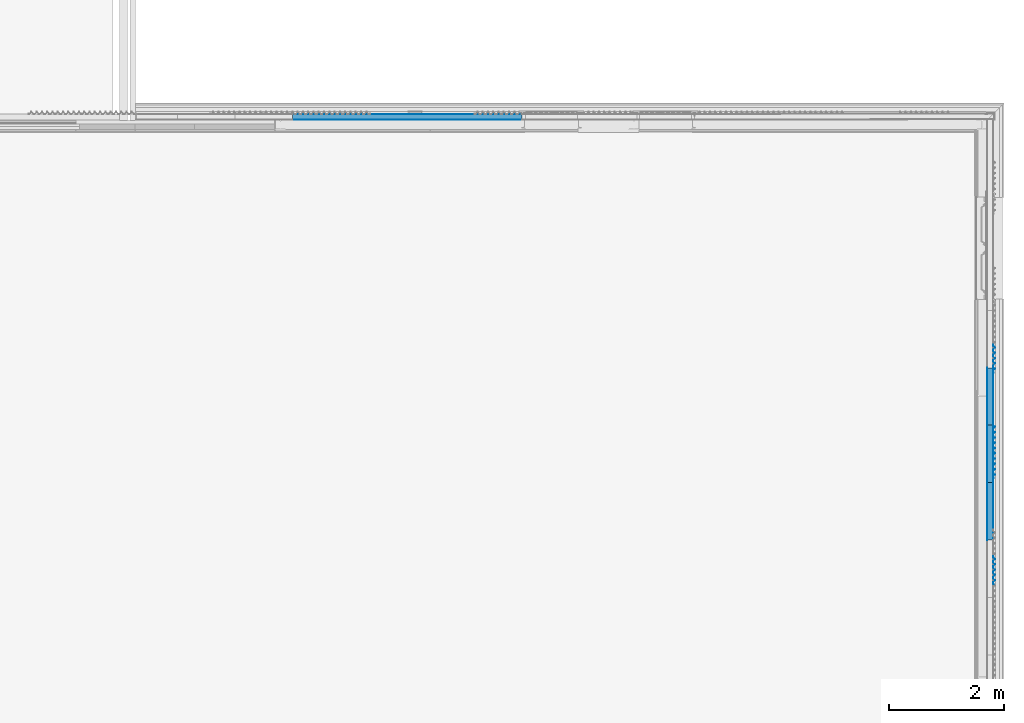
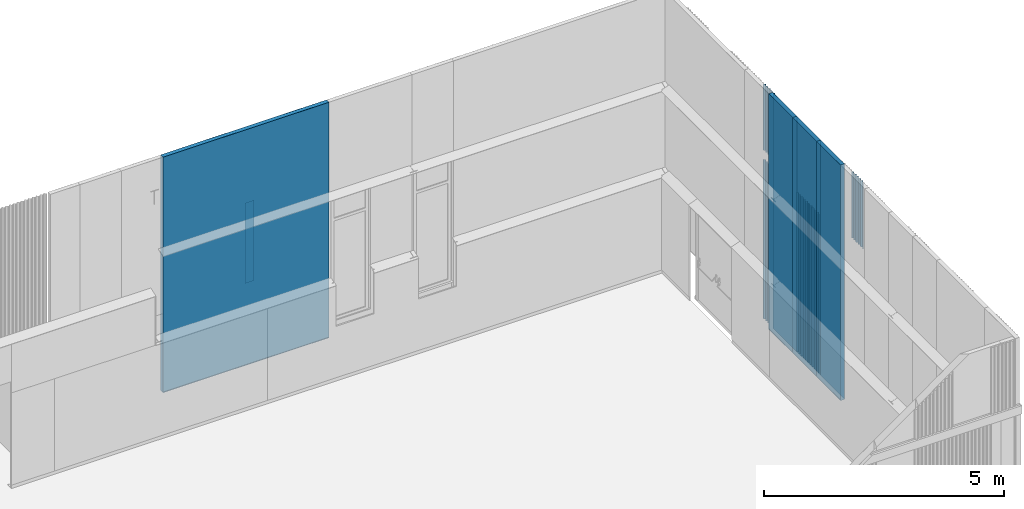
# One storey, part 105 of 338: 18 building element parts, 9 elements without a shape of their own.
"""IFC2X3 building model written with IfcOpenShell, lengths in millimetres."""

from ifc_helpers import new_model, entity, si_unit, converted_unit, derived_unit, money_unit, direction, frame, origin_with_axes, place, context, subcontext, project, spatial, faceted_brep, material, type_object, element, aggregate, save


model = new_model("IFC2X3")

# Units and contexts
model_context = context("Model", 3, precision=0.01, world=origin_with_axes(), true_north=direction((0.0, 1.0)))
plan_context = context("Plan", 3, precision=0.01, world=origin_with_axes(), true_north=direction((0.0, 1.0)))
body_context = subcontext(model_context, "Body", "Model", "MODEL_VIEW")
ifc_project = project(units=[si_unit("LENGTHUNIT", "METRE", prefix="MILLI"), si_unit("AREAUNIT", "SQUARE_METRE"), si_unit("VOLUMEUNIT", "CUBIC_METRE"), converted_unit("PLANEANGLEUNIT", "DEGREE", entity("IfcPlaneAngleMeasure", 0.0174532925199), si_unit("PLANEANGLEUNIT", "RADIAN"), dimensions=[0, 0, 0, 0, 0, 0, 0]), money_unit("EUR"), converted_unit("TIMEUNIT", "Year", entity("IfcTimeMeasure", 31556926.0), si_unit("TIMEUNIT", "SECOND"), dimensions=[0, 0, 1, 0, 0, 0, 0]), si_unit("MASSUNIT", "GRAM", prefix="KILO"), si_unit("THERMODYNAMICTEMPERATUREUNIT", "DEGREE_CELSIUS"), si_unit("LUMINOUSINTENSITYUNIT", "LUMEN"), si_unit("ENERGYUNIT", "JOULE", prefix="MEGA"), derived_unit("THERMALCONDUCTANCEUNIT", [(si_unit("POWERUNIT", "WATT"), 1), (si_unit("LENGTHUNIT", "METRE"), -1), (si_unit("THERMODYNAMICTEMPERATUREUNIT", "KELVIN"), -1)]), derived_unit("SPECIFICHEATCAPACITYUNIT", [(si_unit("ENERGYUNIT", "JOULE"), 1), (si_unit("MASSUNIT", "GRAM", prefix="KILO"), -1), (si_unit("THERMODYNAMICTEMPERATUREUNIT", "KELVIN"), -1)]), derived_unit("MASSDENSITYUNIT", [(si_unit("MASSUNIT", "GRAM", prefix="KILO"), 1), (si_unit("VOLUMEUNIT", "CUBIC_METRE"), -1)])], contexts=[model_context, plan_context])

# Site, building, storey
site_placement = place(None, origin_with_axes())
site = spatial("IfcSite", under=ifc_project, at=site_placement, Name="Fortuinstraat Woensdrecht", CompositionType="ELEMENT")
building_placement = place(site_placement, origin_with_axes())
building = spatial("IfcBuilding", under=site, at=building_placement, Name="IKC Fortuna", CompositionType="ELEMENT")
storey_placement = place(building_placement, origin_with_axes())
storey = spatial("IfcBuildingStorey", under=building, at=storey_placement, Name="00 begane grond", CompositionType="ELEMENT", Elevation=0.0)

# Wall, building element parts
wall_type_1 = type_object("IfcWallType", Name="21 sandwich 100", PredefinedType="NOTDEFINED")
wall_1_placement = place(storey_placement, frame((59433.4270571, 30181.3126832, 1000.0), z_axis=(0.0, 0.0, 1.0), x_axis=(0.0, -1.0, 0.0)))
wall_1 = element("IfcWall", 1, at=wall_1_placement, inside=storey, type_object=wall_type_1, Name="21_Wand_sandwichplaat")
ifc_material_1 = material(Name="Metaal - Aluminium")
building_element_part_1_placement = place(wall_1_placement, origin_with_axes())
building_element_part_1 = element("IfcBuildingElementPart", 2, at=building_element_part_1_placement, material=ifc_material_1, Name="Metaal - Aluminium", context=body_context, shape_type="Brep", body=[
    faceted_brep([(0.0, 99.0, 6000.0), (1000.0, 99.0, 6000.0), (1000.0, 100.0, 6000.0), (0.0, 100.0, 6000.0), (0.0, 99.0, 0.0), (1000.0, 99.0, 0.0), (1000.0, 100.0, 0.0), (0.0, 100.0, 0.0)], [[[0, 1, 2, 3]], [[4, 5, 1, 0]], [[2, 1, 5, 6]], [[3, 2, 6, 7]], [[4, 0, 3, 7]], [[7, 6, 5, 4]]]),
])
ifc_material_2 = material(Name="Isolatie - Kunststof hard")
building_element_part_2_placement = place(wall_1_placement, origin_with_axes())
building_element_part_2 = element("IfcBuildingElementPart", 3, at=building_element_part_2_placement, material=ifc_material_2, Name="Isolatie - Kunststof hard", context=body_context, shape_type="Brep", body=[
    faceted_brep([(1000.0, 0.999999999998, 6000.0), (1000.0, 99.0, 6000.0), (0.0, 99.0, 6000.0), (0.0, 0.999999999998, 6000.0), (1000.0, 0.999999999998, 0.0), (1000.0, 99.0, 0.0), (0.0, 99.0, 0.0), (0.0, 0.999999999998, 0.0)], [[[0, 1, 2, 3]], [[0, 4, 5, 1]], [[1, 5, 6, 2]], [[3, 2, 6, 7]], [[4, 0, 3, 7]], [[5, 4, 7, 6]]]),
])
building_element_part_3_placement = place(wall_1_placement, origin_with_axes())
building_element_part_3 = element("IfcBuildingElementPart", 4, at=building_element_part_3_placement, material=ifc_material_1, Name="Metaal - Aluminium", context=body_context, shape_type="Brep", body=[
    faceted_brep([(1000.0, 0.0, 6000.0), (0.0, 0.0, 6000.0), (0.0, 8.02842237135e-08, 18.9263474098), (337.287320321, 8.33466629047e-08, 18.9263474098), (412.41545981, 8.33466629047e-08, 18.9263474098), (1000.0, 8.18118905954e-08, 18.9263474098), (1000.0, 0.999999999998, 6000.0), (0.0, 0.999999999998, 6000.0), (0.0, 0.999999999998, 18.9261694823), (1000.0, 0.999999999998, 18.9261694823)], [[[0, 1, 2, 3, 4, 5]], [[0, 6, 7, 1]], [[1, 7, 8, 2]], [[4, 3, 2, 8, 9, 5]], [[6, 0, 5, 9]], [[6, 9, 8, 7]]]),
])
aggregate(wall_1, [building_element_part_1, building_element_part_2, building_element_part_3])

wall_2_placement = place(storey_placement, frame((59433.4270571, 29181.3126832, 1000.0), z_axis=(0.0, 0.0, 1.0), x_axis=(0.0, -1.0, 0.0)))
wall_2 = element("IfcWall", 5, at=wall_2_placement, inside=storey, type_object=wall_type_1, Name="21_Wand_sandwichplaat")
building_element_part_4_placement = place(wall_2_placement, origin_with_axes())
building_element_part_4 = element("IfcBuildingElementPart", 6, at=building_element_part_4_placement, material=ifc_material_1, Name="Metaal - Aluminium", context=body_context, shape_type="Brep", body=[
    faceted_brep([(0.0, 99.0, 6000.0), (1000.0, 99.0, 6000.0), (1000.0, 100.0, 6000.0), (0.0, 100.0, 6000.0), (0.0, 99.0, 0.0), (1000.0, 99.0, 0.0), (1000.0, 100.0, 0.0), (0.0, 100.0, 0.0)], [[[0, 1, 2, 3]], [[4, 5, 1, 0]], [[2, 1, 5, 6]], [[3, 2, 6, 7]], [[4, 0, 3, 7]], [[7, 6, 5, 4]]]),
])
building_element_part_5_placement = place(wall_2_placement, origin_with_axes())
building_element_part_5 = element("IfcBuildingElementPart", 7, at=building_element_part_5_placement, material=ifc_material_2, Name="Isolatie - Kunststof hard", context=body_context, shape_type="Brep", body=[
    faceted_brep([(1000.0, 0.999999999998, 6000.0), (1000.0, 99.0, 6000.0), (0.0, 99.0, 6000.0), (0.0, 0.999999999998, 6000.0), (1000.0, 0.999999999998, 0.0), (1000.0, 99.0, 0.0), (0.0, 99.0, 0.0), (0.0, 0.999999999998, 0.0)], [[[0, 1, 2, 3]], [[0, 4, 5, 1]], [[1, 5, 6, 2]], [[3, 2, 6, 7]], [[4, 0, 3, 7]], [[5, 4, 7, 6]]]),
])
building_element_part_6_placement = place(wall_2_placement, origin_with_axes())
building_element_part_6 = element("IfcBuildingElementPart", 8, at=building_element_part_6_placement, material=ifc_material_1, Name="Metaal - Aluminium", context=body_context, shape_type="Brep", body=[
    faceted_brep([(1000.0, 0.0, 6000.0), (0.0, 0.0, 6000.0), (0.0, 8.18047851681e-08, 18.9263474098), (1000.0, 7.91828824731e-08, 18.9263474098), (1000.0, 0.999999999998, 6000.0), (0.0, 0.999999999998, 6000.0), (0.0, 0.999999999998, 18.9261694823), (1000.0, 0.999999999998, 18.9261694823)], [[[0, 1, 2, 3]], [[1, 0, 4, 5]], [[2, 1, 5, 6]], [[3, 2, 6, 7]], [[0, 3, 7, 4]], [[5, 4, 7, 6]]]),
])
aggregate(wall_2, [building_element_part_4, building_element_part_5, building_element_part_6])

wall_3_placement = place(storey_placement, frame((59433.4270571, 31181.3126832, 1000.0), z_axis=(0.0, 0.0, 1.0), x_axis=(0.0, -1.0, 0.0)))
wall_3 = element("IfcWall", 9, at=wall_3_placement, inside=storey, type_object=wall_type_1, Name="21_Wand_sandwichplaat")
building_element_part_7_placement = place(wall_3_placement, origin_with_axes())
building_element_part_7 = element("IfcBuildingElementPart", 10, at=building_element_part_7_placement, material=ifc_material_1, Name="Metaal - Aluminium", context=body_context, shape_type="Brep", body=[
    faceted_brep([(0.0, 99.0, 6000.0), (1000.0, 99.0, 6000.0), (1000.0, 100.0, 6000.0), (0.0, 100.0, 6000.0), (0.0, 99.0, 0.0), (1000.0, 99.0, 0.0), (1000.0, 100.0, 0.0), (0.0, 100.0, 0.0)], [[[0, 1, 2, 3]], [[4, 5, 1, 0]], [[2, 1, 5, 6]], [[3, 2, 6, 7]], [[4, 0, 3, 7]], [[7, 6, 5, 4]]]),
])
building_element_part_8_placement = place(wall_3_placement, origin_with_axes())
building_element_part_8 = element("IfcBuildingElementPart", 11, at=building_element_part_8_placement, material=ifc_material_2, Name="Isolatie - Kunststof hard", context=body_context, shape_type="Brep", body=[
    faceted_brep([(1000.0, 0.999999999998, 6000.0), (1000.0, 99.0, 6000.0), (0.0, 99.0, 6000.0), (0.0, 0.999999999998, 6000.0), (1000.0, 0.999999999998, 0.0), (1000.0, 99.0, 0.0), (0.0, 99.0, 0.0), (0.0, 0.999999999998, 0.0)], [[[0, 1, 2, 3]], [[0, 4, 5, 1]], [[1, 5, 6, 2]], [[3, 2, 6, 7]], [[4, 0, 3, 7]], [[5, 4, 7, 6]]]),
])
building_element_part_9_placement = place(wall_3_placement, origin_with_axes())
building_element_part_9 = element("IfcBuildingElementPart", 12, at=building_element_part_9_placement, material=ifc_material_1, Name="Metaal - Aluminium", context=body_context, shape_type="Brep", body=[
    faceted_brep([(0.0, 7.12176984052e-08, 18.9263474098), (1000.0, 8.02842237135e-08, 18.9263474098), (1000.0, 0.0, 6000.0), (0.0, 0.0, 6000.0), (0.0, 1.00000004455, 18.9261694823), (1000.0, 1.00000004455, 18.9261694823), (1000.0, 0.999999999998, 6000.0), (0.0, 0.999999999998, 6000.0)], [[[0, 1, 2, 3]], [[1, 0, 4, 5]], [[2, 1, 5, 6]], [[3, 2, 6, 7]], [[0, 3, 7, 4]], [[5, 4, 7, 6]]]),
])
aggregate(wall_3, [building_element_part_7, building_element_part_8, building_element_part_9])

wall_4_placement = place(storey_placement, frame((47338.4270571, 35496.2966283, 1000.0), z_axis=(0.0, 0.0, 1.0), x_axis=(1.0, 0.0, 0.0)))
wall_4 = element("IfcWall", 13, at=wall_4_placement, inside=storey, type_object=wall_type_1, Name="21_Wand_sandwichplaat")
building_element_part_10_placement = place(wall_4_placement, origin_with_axes())
building_element_part_10 = element("IfcBuildingElementPart", 14, at=building_element_part_10_placement, material=ifc_material_1, Name="Metaal - Aluminium", context=body_context, shape_type="Brep", body=[
    faceted_brep([(4000.00000006, 99.0, 3566.00076674), (4000.00000006, 100.0, 3566.00076674), (4000.00000006, 100.0, 6000.0), (4000.00000006, 99.0, 6000.0), (3959.99995929, 100.0, 3566.00076674), (3959.99995929, 99.0, 3566.00076674), (3959.99995929, 100.0, 3565.00076674), (4000.00000006, 100.0, 3565.00076674), (4000.00000006, 100.0, 0.0), (0.0, 100.0, 0.0), (0.0, 100.0, 6000.0), (0.0, 99.0, 6000.0), (0.0, 99.0, 0.0), (4000.00000006, 99.0, 0.0), (4000.00000006, 99.0, 3565.00076674), (3959.99995929, 99.0, 3565.00076674)], [[[0, 1, 2, 3]], [[4, 1, 0, 5]], [[6, 7, 8, 9, 10, 2, 1, 4]], [[11, 3, 2, 10]], [[5, 0, 3, 11, 12, 13, 14, 15]], [[6, 4, 5, 15]], [[14, 7, 6, 15]], [[7, 14, 13, 8]], [[9, 8, 13, 12]], [[12, 11, 10, 9]]]),
])
building_element_part_11_placement = place(wall_4_placement, origin_with_axes())
building_element_part_11 = element("IfcBuildingElementPart", 15, at=building_element_part_11_placement, material=ifc_material_2, Name="Isolatie - Kunststof hard", context=body_context, shape_type="Brep", body=[
    faceted_brep([(4000.00000006, 0.999999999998, 6000.0), (4000.00000006, 99.0, 6000.0), (0.0, 99.0, 6000.0), (0.0, 0.999999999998, 6000.0), (4000.00000006, 0.999999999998, 0.0), (4000.00000006, 99.0, 0.0), (0.0, 99.0, 0.0), (0.0, 0.999999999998, 0.0)], [[[0, 1, 2, 3]], [[0, 4, 5, 1]], [[1, 5, 6, 2]], [[3, 2, 6, 7]], [[4, 0, 3, 7]], [[5, 4, 7, 6]]]),
])
building_element_part_12_placement = place(wall_4_placement, origin_with_axes())
building_element_part_12 = element("IfcBuildingElementPart", 16, at=building_element_part_12_placement, material=ifc_material_1, Name="Metaal - Aluminium", context=body_context, shape_type="Brep", body=[
    faceted_brep([(0.0, 0.999999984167, 19.9966193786), (0.0, 0.999999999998, 6000.0), (4000.00000006, 0.999999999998, 6000.0), (4000.00000006, 0.999999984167, 19.9966193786), (0.0, 0.0, 19.996797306), (0.0, 0.0, 6000.0), (4000.00000006, 0.0, 6000.0), (4000.00000006, 0.0, 19.996797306)], [[[0, 1, 2, 3]], [[0, 4, 5, 1]], [[1, 5, 6, 2]], [[6, 7, 3, 2]], [[4, 0, 3, 7]], [[5, 4, 7, 6]]]),
])
aggregate(wall_4, [building_element_part_10, building_element_part_11, building_element_part_12])

# Wall, building element part
wall_type_2 = type_object("IfcWallType", Name="21 Plankprofiel 37", PredefinedType="NOTDEFINED")
wall_5_placement = place(storey_placement, frame((49588.4257084, 35496.3640064, 3010.0), z_axis=(0.0, 0.0, 1.0), x_axis=(-0.999999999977, 6.74351797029e-06, 0.0)))
wall_5 = element("IfcWall", 17, at=wall_5_placement, inside=storey, type_object=wall_type_2, Name="21_Wand_sandwichplaat")
building_element_part_13_placement = place(wall_5_placement, origin_with_axes())
building_element_part_13 = element("IfcBuildingElementPart", 18, at=building_element_part_13_placement, material=ifc_material_1, Name="Metaal - Aluminium", context=body_context, shape_type="Brep", body=[
    faceted_brep([(220.0, -100.0, 0.0), (220.0, -101.0, 0.0), (0.0, -101.0, 0.0), (0.0, -100.0, 0.0), (220.0, -100.0, 2050.85690076), (220.0, -101.0, 2050.85690076), (0.0, -101.0, 2050.85690076), (0.0, -100.0, 2050.85690076)], [[[0, 1, 2, 3]], [[0, 4, 5, 1]], [[1, 5, 6, 2]], [[3, 2, 6, 7]], [[4, 0, 3, 7]], [[5, 4, 7, 6]]]),
])
aggregate(wall_5, [building_element_part_13])

# Proxy, building element part
building_element_proxy_type = type_object("IfcBuildingElementProxyType", Name="21 Sandwich custom pyramid 946 x 37", PredefinedType="NOTDEFINED")
proxy_1_placement = place(storey_placement, frame((59533.4270571, 32043.6060069, 1000.0), z_axis=(0.0, 0.0, 1.0), x_axis=(0.0, -1.0, 0.0)))
proxy_1 = element("IfcBuildingElementProxy", 19, at=proxy_1_placement, inside=storey, type_object=building_element_proxy_type, Name="41_Generieke bekleding & afwerking buiten_sandwich custom pyramid")
building_element_part_14_placement = place(proxy_1_placement, origin_with_axes())
building_element_part_14 = element("IfcBuildingElementPart", 20, at=building_element_part_14_placement, material=ifc_material_1, Name="Metaal - Aluminium", context=body_context, shape_type="Brep", body=[
    faceted_brep([(460.0, 1.2, 0.0), (477.234285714, 1.2, 0.0), (477.234285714, 1.2, 4060.85690076), (460.0, 1.2, 4060.85690076), (460.0, 2.4, 0.0), (476.747100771, 2.4, 0.0), (512.0, 36.6736520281, 0.0), (548.487184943, 1.2, 0.0), (567.512815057, 1.2, 0.0), (604.0, 36.6736520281, 0.0), (640.487184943, 1.2, 0.0), (659.512815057, 1.2, 0.0), (696.0, 36.6736520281, 0.0), (732.487184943, 1.2, 0.0), (751.512815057, 1.2, 0.0), (788.0, 36.6736520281, 0.0), (824.487184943, 1.2, 0.0), (843.512815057, 1.2, 0.0), (880.0, 36.6736520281, 0.0), (916.487184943, 1.2, 0.0), (937.234285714, 1.2, 0.0), (945.472884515, 9.20974883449, 0.0), (946.309378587, 8.34935493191, 0.0), (937.721470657, 0.0, 0.0), (916.0, 0.0, 0.0), (880.0, 35.0, 0.0), (844.0, 0.0, 0.0), (824.0, 0.0, 0.0), (788.0, 35.0, 0.0), (752.0, 0.0, 0.0), (732.0, 0.0, 0.0), (696.0, 35.0, 0.0), (660.0, 0.0, 0.0), (640.0, 0.0, 0.0), (604.0, 35.0, 0.0), (568.0, 0.0, 0.0), (548.0, 0.0, 0.0), (512.0, 35.0, 0.0), (485.472879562, 9.20975302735, 0.0), (485.472879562, 9.20975302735, 4060.85690076), (512.0, 35.0, 4060.85690076), (548.0, 0.0, 4060.85690076), (568.0, 0.0, 4060.85690076), (604.0, 35.0, 4060.85690076), (640.0, 0.0, 4060.85690076), (660.0, 0.0, 4060.85690076), (696.0, 35.0, 4060.85690076), (732.0, 0.0, 4060.85690076), (752.0, 0.0, 4060.85690076), (788.0, 35.0, 4060.85690076), (824.0, 0.0, 4060.85690076), (844.0, 0.0, 4060.85690076), (880.0, 35.0, 4060.85690076), (916.0, 0.0, 4060.85690076), (937.721470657, 0.0, 4060.85690076), (946.309378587, 8.34935493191, 4060.85690076), (945.472884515, 9.20974883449, 4060.85690076), (937.234285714, 1.2, 4060.85690076), (916.487184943, 1.2, 4060.85690076), (880.0, 36.6736520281, 4060.85690076), (843.512815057, 1.2, 4060.85690076), (824.487184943, 1.2, 4060.85690076), (788.0, 36.6736520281, 4060.85690076), (751.512815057, 1.2, 4060.85690076), (732.487184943, 1.2, 4060.85690076), (696.0, 36.6736520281, 4060.85690076), (659.512815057, 1.2, 4060.85690076), (640.487184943, 1.2, 4060.85690076), (604.0, 36.6736520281, 4060.85690076), (567.512815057, 1.2, 4060.85690076), (548.487184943, 1.2, 4060.85690076), (512.0, 36.6736520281, 4060.85690076), (476.747100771, 2.4, 4060.85690076), (460.0, 2.4, 4060.85690076)], [[[0, 1, 2, 3]], [[0, 4, 5, 6, 7, 8, 9, 10, 11, 12, 13, 14, 15, 16, 17, 18, 19, 20, 21, 22, 23, 24, 25, 26, 27, 28, 29, 30, 31, 32, 33, 34, 35, 36, 37, 38, 1]], [[1, 38, 39, 2]], [[3, 2, 39, 40, 41, 42, 43, 44, 45, 46, 47, 48, 49, 50, 51, 52, 53, 54, 55, 56, 57, 58, 59, 60, 61, 62, 63, 64, 65, 66, 67, 68, 69, 70, 71, 72, 73]], [[4, 0, 3, 73]], [[5, 4, 73, 72]], [[6, 5, 72, 71]], [[7, 6, 71, 70]], [[8, 7, 70, 69]], [[9, 8, 69, 68]], [[10, 9, 68, 67]], [[11, 10, 67, 66]], [[12, 11, 66, 65]], [[13, 12, 65, 64]], [[14, 13, 64, 63]], [[15, 14, 63, 62]], [[16, 15, 62, 61]], [[17, 16, 61, 60]], [[18, 17, 60, 59]], [[19, 18, 59, 58]], [[20, 19, 58, 57]], [[21, 20, 57, 56]], [[22, 21, 56, 55]], [[23, 22, 55, 54]], [[24, 23, 54, 53]], [[25, 24, 53, 52]], [[26, 25, 52, 51]], [[27, 26, 51, 50]], [[28, 27, 50, 49]], [[29, 28, 49, 48]], [[30, 29, 48, 47]], [[31, 30, 47, 46]], [[32, 31, 46, 45]], [[33, 32, 45, 44]], [[34, 33, 44, 43]], [[35, 34, 43, 42]], [[36, 35, 42, 41]], [[37, 36, 41, 40]], [[38, 37, 40, 39]]]),
])
aggregate(proxy_1, [building_element_part_14])

proxy_2_placement = place(storey_placement, frame((59533.4270571, 32043.6060069, 5289.99999237), z_axis=(0.0, 0.0, 1.0), x_axis=(0.0, -1.0, 0.0)))
proxy_2 = element("IfcBuildingElementProxy", 21, at=proxy_2_placement, inside=storey, type_object=building_element_proxy_type, Name="41_Generieke bekleding & afwerking buiten_sandwich custom pyramid")
building_element_part_15_placement = place(proxy_2_placement, origin_with_axes())
building_element_part_15 = element("IfcBuildingElementPart", 22, at=building_element_part_15_placement, material=ifc_material_1, Name="Metaal - Aluminium", context=body_context, shape_type="Brep", body=[
    faceted_brep([(460.0, 1.2, 0.0), (477.234285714, 1.2, 0.0), (477.234285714, 1.2, 1690.00000566), (460.0, 1.2, 1690.00000566), (460.0, 2.4, 0.0), (476.747100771, 2.4, 0.0), (512.0, 36.6736520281, 0.0), (548.487184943, 1.2, 0.0), (567.512815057, 1.2, 0.0), (604.0, 36.6736520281, 0.0), (640.487184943, 1.2, 0.0), (659.512815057, 1.2, 0.0), (696.0, 36.6736520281, 0.0), (732.487184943, 1.2, 0.0), (751.512815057, 1.2, 0.0), (788.0, 36.6736520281, 0.0), (824.487184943, 1.2, 0.0), (843.512815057, 1.2, 0.0), (880.0, 36.6736520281, 0.0), (916.487184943, 1.2, 0.0), (937.234285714, 1.2, 0.0), (945.472884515, 9.20974883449, 0.0), (946.309378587, 8.34935493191, 0.0), (937.721470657, 0.0, 0.0), (916.0, 0.0, 0.0), (880.0, 35.0, 0.0), (844.0, 0.0, 0.0), (824.0, 0.0, 0.0), (788.0, 35.0, 0.0), (752.0, 0.0, 0.0), (732.0, 0.0, 0.0), (696.0, 35.0, 0.0), (660.0, 0.0, 0.0), (640.0, 0.0, 0.0), (604.0, 35.0, 0.0), (568.0, 0.0, 0.0), (548.0, 0.0, 0.0), (512.0, 35.0, 0.0), (485.472879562, 9.20975302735, 0.0), (485.472879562, 9.20975302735, 1690.00000566), (512.0, 35.0, 1690.00000566), (548.0, 0.0, 1690.00000566), (568.0, 0.0, 1690.00000566), (604.0, 35.0, 1690.00000566), (640.0, 0.0, 1690.00000566), (660.0, 0.0, 1690.00000566), (696.0, 35.0, 1690.00000566), (732.0, 0.0, 1690.00000566), (752.0, 0.0, 1690.00000566), (788.0, 35.0, 1690.00000566), (824.0, 0.0, 1690.00000566), (844.0, 0.0, 1690.00000566), (880.0, 35.0, 1690.00000566), (916.0, 0.0, 1690.00000566), (937.721470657, 0.0, 1690.00000566), (946.309378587, 8.34935493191, 1690.00000566), (945.472884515, 9.20974883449, 1690.00000566), (937.234285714, 1.2, 1690.00000566), (916.487184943, 1.2, 1690.00000566), (880.0, 36.6736520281, 1690.00000566), (843.512815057, 1.2, 1690.00000566), (824.487184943, 1.2, 1690.00000566), (788.0, 36.6736520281, 1690.00000566), (751.512815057, 1.2, 1690.00000566), (732.487184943, 1.2, 1690.00000566), (696.0, 36.6736520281, 1690.00000566), (659.512815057, 1.2, 1690.00000566), (640.487184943, 1.2, 1690.00000566), (604.0, 36.6736520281, 1690.00000566), (567.512815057, 1.2, 1690.00000566), (548.487184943, 1.2, 1690.00000566), (512.0, 36.6736520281, 1690.00000566), (476.747100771, 2.4, 1690.00000566), (460.0, 2.4, 1690.00000566)], [[[0, 1, 2, 3]], [[0, 4, 5, 6, 7, 8, 9, 10, 11, 12, 13, 14, 15, 16, 17, 18, 19, 20, 21, 22, 23, 24, 25, 26, 27, 28, 29, 30, 31, 32, 33, 34, 35, 36, 37, 38, 1]], [[1, 38, 39, 2]], [[3, 2, 39, 40, 41, 42, 43, 44, 45, 46, 47, 48, 49, 50, 51, 52, 53, 54, 55, 56, 57, 58, 59, 60, 61, 62, 63, 64, 65, 66, 67, 68, 69, 70, 71, 72, 73]], [[4, 0, 3, 73]], [[5, 4, 73, 72]], [[6, 5, 72, 71]], [[7, 6, 71, 70]], [[8, 7, 70, 69]], [[9, 8, 69, 68]], [[10, 9, 68, 67]], [[11, 10, 67, 66]], [[12, 11, 66, 65]], [[13, 12, 65, 64]], [[14, 13, 64, 63]], [[15, 14, 63, 62]], [[16, 15, 62, 61]], [[17, 16, 61, 60]], [[18, 17, 60, 59]], [[19, 18, 59, 58]], [[20, 19, 58, 57]], [[21, 20, 57, 56]], [[22, 21, 56, 55]], [[23, 22, 55, 54]], [[24, 23, 54, 53]], [[25, 24, 53, 52]], [[26, 25, 52, 51]], [[27, 26, 51, 50]], [[28, 27, 50, 49]], [[29, 28, 49, 48]], [[30, 29, 48, 47]], [[31, 30, 47, 46]], [[32, 31, 46, 45]], [[33, 32, 45, 44]], [[34, 33, 44, 43]], [[35, 34, 43, 42]], [[36, 35, 42, 41]], [[37, 36, 41, 40]], [[38, 37, 40, 39]]]),
])
aggregate(proxy_2, [building_element_part_15])

# Proxy, building element parts
proxy_3_placement = place(storey_placement, frame((59533.4270571, 30203.6060069, 1000.0), z_axis=(0.0, 0.0, 1.0), x_axis=(0.0, -1.0, 0.0)))
proxy_3 = element("IfcBuildingElementProxy", 23, at=proxy_3_placement, inside=storey, type_object=building_element_proxy_type, Name="41_Generieke bekleding & afwerking buiten_sandwich custom pyramid")
building_element_part_16_placement = place(proxy_3_placement, origin_with_axes())
building_element_part_16 = element("IfcBuildingElementPart", 24, at=building_element_part_16_placement, material=ifc_material_1, Name="Metaal - Aluminium", context=body_context, shape_type="Brep", body=[
    faceted_brep([(0.0, 2.39999686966, 0.0), (0.0, 1.20000548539, 0.0), (0.0, 1.20000548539, 4060.85690076), (0.0, 2.39999686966, 4060.85690076), (16.7470988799, 2.39999686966, 0.0), (52.0000026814, 36.6736482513, 0.0), (88.487191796, 1.20000548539, 0.0), (107.51282048, 1.20000548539, 0.0), (143.999995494, 36.6736482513, 0.0), (180.487184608, 1.20000548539, 0.0), (199.512813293, 1.20000548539, 0.0), (236.000002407, 36.6736482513, 0.0), (272.487191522, 1.20000548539, 0.0), (291.512820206, 1.20000548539, 0.0), (327.99999522, 36.6736482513, 0.0), (364.487184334, 1.20000548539, 0.0), (383.512813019, 1.20000548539, 0.0), (420.000002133, 36.6736482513, 0.0), (456.487191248, 1.20000548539, 0.0), (460.000006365, 1.20000548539, 0.0), (477.23428491, 1.20000548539, 0.0), (485.472879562, 9.20975302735, 0.0), (486.309372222, 8.34935896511, 0.0), (477.721464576, 0.0, 0.0), (455.999997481, 0.0, 0.0), (420.000002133, 35.0000001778, 0.0), (384.000006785, 0.0, 0.0), (364.000004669, 0.0, 0.0), (327.99999522, 35.0000001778, 0.0), (291.999999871, 0.0, 0.0), (271.999997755, 0.0, 0.0), (236.000002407, 35.0000001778, 0.0), (199.999992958, 0.0, 0.0), (180.000004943, 0.0, 0.0), (143.999995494, 35.0000001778, 0.0), (108.000000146, 0.0, 0.0), (87.9999980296, 0.0, 0.0), (52.0000026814, 35.0000001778, 0.0), (17.2342926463, 1.20000548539, 0.0), (17.2342926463, 1.20000548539, 4060.85690076), (52.0000026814, 35.0000001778, 4060.85690076), (87.9999980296, 0.0, 4060.85690076), (108.000000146, 0.0, 4060.85690076), (143.999995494, 35.0000001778, 4060.85690076), (180.000004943, 0.0, 4060.85690076), (199.999992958, 0.0, 4060.85690076), (236.000002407, 35.0000001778, 4060.85690076), (271.999997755, 0.0, 4060.85690076), (291.999999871, 0.0, 4060.85690076), (327.99999522, 35.0000001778, 4060.85690076), (364.000004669, 0.0, 4060.85690076), (384.000006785, 0.0, 4060.85690076), (420.000002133, 35.0000001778, 4060.85690076), (455.999997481, 0.0, 4060.85690076), (477.721464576, 0.0, 4060.85690076), (486.309372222, 8.34935896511, 4060.85690076), (485.472879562, 9.20975302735, 4060.85690076), (477.23428491, 1.20000548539, 4060.85690076), (460.000006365, 1.20000548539, 4060.85690076), (456.487191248, 1.20000548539, 4060.85690076), (420.000002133, 36.6736482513, 4060.85690076), (383.512813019, 1.20000548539, 4060.85690076), (364.487184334, 1.20000548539, 4060.85690076), (327.99999522, 36.6736482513, 4060.85690076), (291.512820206, 1.20000548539, 4060.85690076), (272.487191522, 1.20000548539, 4060.85690076), (236.000002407, 36.6736482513, 4060.85690076), (199.512813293, 1.20000548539, 4060.85690076), (180.487184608, 1.20000548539, 4060.85690076), (143.999995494, 36.6736482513, 4060.85690076), (107.51282048, 1.20000548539, 4060.85690076), (88.487191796, 1.20000548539, 4060.85690076), (52.0000026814, 36.6736482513, 4060.85690076), (16.7470988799, 2.39999686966, 4060.85690076)], [[[0, 1, 2, 3]], [[0, 4, 5, 6, 7, 8, 9, 10, 11, 12, 13, 14, 15, 16, 17, 18, 19, 20, 21, 22, 23, 24, 25, 26, 27, 28, 29, 30, 31, 32, 33, 34, 35, 36, 37, 38, 1]], [[1, 38, 39, 2]], [[3, 2, 39, 40, 41, 42, 43, 44, 45, 46, 47, 48, 49, 50, 51, 52, 53, 54, 55, 56, 57, 58, 59, 60, 61, 62, 63, 64, 65, 66, 67, 68, 69, 70, 71, 72, 73]], [[4, 0, 3, 73]], [[5, 4, 73, 72]], [[6, 5, 72, 71]], [[7, 6, 71, 70]], [[8, 7, 70, 69]], [[9, 8, 69, 68]], [[10, 9, 68, 67]], [[11, 10, 67, 66]], [[12, 11, 66, 65]], [[13, 12, 65, 64]], [[14, 13, 64, 63]], [[15, 14, 63, 62]], [[16, 15, 62, 61]], [[17, 16, 61, 60]], [[18, 17, 60, 59]], [[19, 18, 59, 58]], [[20, 19, 58, 57]], [[21, 20, 57, 56]], [[22, 21, 56, 55]], [[23, 22, 55, 54]], [[24, 23, 54, 53]], [[25, 24, 53, 52]], [[26, 25, 52, 51]], [[27, 26, 51, 50]], [[28, 27, 50, 49]], [[29, 28, 49, 48]], [[30, 29, 48, 47]], [[31, 30, 47, 46]], [[32, 31, 46, 45]], [[33, 32, 45, 44]], [[34, 33, 44, 43]], [[35, 34, 43, 42]], [[36, 35, 42, 41]], [[37, 36, 41, 40]], [[38, 37, 40, 39]]]),
])
building_element_part_17_placement = place(proxy_3_placement, origin_with_axes())
building_element_part_17 = element("IfcBuildingElementPart", 25, at=building_element_part_17_placement, material=ifc_material_1, Name="Metaal - Aluminium", context=body_context, shape_type="Brep", body=[
    faceted_brep([(460.0, 1.2, 0.0), (477.234285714, 1.2, 0.0), (477.234285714, 1.2, 4060.85690076), (460.0, 1.2, 4060.85690076), (460.0, 2.4, 0.0), (476.747100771, 2.4, 0.0), (512.0, 36.6736520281, 0.0), (548.487184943, 1.2, 0.0), (567.512815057, 1.2, 0.0), (604.0, 36.6736520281, 0.0), (640.487184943, 1.2, 0.0), (659.512815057, 1.2, 0.0), (696.0, 36.6736520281, 0.0), (732.487184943, 1.2, 0.0), (751.512815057, 1.2, 0.0), (788.0, 36.6736520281, 0.0), (824.487184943, 1.2, 0.0), (843.512815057, 1.2, 0.0), (880.0, 36.6736520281, 0.0), (916.487184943, 1.2, 0.0), (937.234285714, 1.2, 0.0), (945.472884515, 9.20974883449, 0.0), (946.309378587, 8.34935493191, 0.0), (937.721470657, 0.0, 0.0), (916.0, 0.0, 0.0), (880.0, 35.0, 0.0), (844.0, 0.0, 0.0), (824.0, 0.0, 0.0), (788.0, 35.0, 0.0), (752.0, 0.0, 0.0), (732.0, 0.0, 0.0), (696.0, 35.0, 0.0), (660.0, 0.0, 0.0), (640.0, 0.0, 0.0), (604.0, 35.0, 0.0), (568.0, 0.0, 0.0), (548.0, 0.0, 0.0), (512.0, 35.0, 0.0), (485.472879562, 9.20975302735, 0.0), (485.472879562, 9.20975302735, 4060.85690076), (512.0, 35.0, 4060.85690076), (548.0, 0.0, 4060.85690076), (568.0, 0.0, 4060.85690076), (604.0, 35.0, 4060.85690076), (640.0, 0.0, 4060.85690076), (660.0, 0.0, 4060.85690076), (696.0, 35.0, 4060.85690076), (732.0, 0.0, 4060.85690076), (752.0, 0.0, 4060.85690076), (788.0, 35.0, 4060.85690076), (824.0, 0.0, 4060.85690076), (844.0, 0.0, 4060.85690076), (880.0, 35.0, 4060.85690076), (916.0, 0.0, 4060.85690076), (937.721470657, 0.0, 4060.85690076), (946.309378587, 8.34935493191, 4060.85690076), (945.472884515, 9.20974883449, 4060.85690076), (937.234285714, 1.2, 4060.85690076), (916.487184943, 1.2, 4060.85690076), (880.0, 36.6736520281, 4060.85690076), (843.512815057, 1.2, 4060.85690076), (824.487184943, 1.2, 4060.85690076), (788.0, 36.6736520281, 4060.85690076), (751.512815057, 1.2, 4060.85690076), (732.487184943, 1.2, 4060.85690076), (696.0, 36.6736520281, 4060.85690076), (659.512815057, 1.2, 4060.85690076), (640.487184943, 1.2, 4060.85690076), (604.0, 36.6736520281, 4060.85690076), (567.512815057, 1.2, 4060.85690076), (548.487184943, 1.2, 4060.85690076), (512.0, 36.6736520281, 4060.85690076), (476.747100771, 2.4, 4060.85690076), (460.0, 2.4, 4060.85690076)], [[[0, 1, 2, 3]], [[0, 4, 5, 6, 7, 8, 9, 10, 11, 12, 13, 14, 15, 16, 17, 18, 19, 20, 21, 22, 23, 24, 25, 26, 27, 28, 29, 30, 31, 32, 33, 34, 35, 36, 37, 38, 1]], [[1, 38, 39, 2]], [[3, 2, 39, 40, 41, 42, 43, 44, 45, 46, 47, 48, 49, 50, 51, 52, 53, 54, 55, 56, 57, 58, 59, 60, 61, 62, 63, 64, 65, 66, 67, 68, 69, 70, 71, 72, 73]], [[4, 0, 3, 73]], [[5, 4, 73, 72]], [[6, 5, 72, 71]], [[7, 6, 71, 70]], [[8, 7, 70, 69]], [[9, 8, 69, 68]], [[10, 9, 68, 67]], [[11, 10, 67, 66]], [[12, 11, 66, 65]], [[13, 12, 65, 64]], [[14, 13, 64, 63]], [[15, 14, 63, 62]], [[16, 15, 62, 61]], [[17, 16, 61, 60]], [[18, 17, 60, 59]], [[19, 18, 59, 58]], [[20, 19, 58, 57]], [[21, 20, 57, 56]], [[22, 21, 56, 55]], [[23, 22, 55, 54]], [[24, 23, 54, 53]], [[25, 24, 53, 52]], [[26, 25, 52, 51]], [[27, 26, 51, 50]], [[28, 27, 50, 49]], [[29, 28, 49, 48]], [[30, 29, 48, 47]], [[31, 30, 47, 46]], [[32, 31, 46, 45]], [[33, 32, 45, 44]], [[34, 33, 44, 43]], [[35, 34, 43, 42]], [[36, 35, 42, 41]], [[37, 36, 41, 40]], [[38, 37, 40, 39]]]),
])
aggregate(proxy_3, [building_element_part_16, building_element_part_17])

# Proxy, building element part
proxy_4_placement = place(storey_placement, frame((59533.4270571, 28363.6060069, 5289.99999237), z_axis=(0.0, 0.0, 1.0), x_axis=(0.0, -1.0, 0.0)))
proxy_4 = element("IfcBuildingElementProxy", 26, at=proxy_4_placement, inside=storey, type_object=building_element_proxy_type, Name="41_Generieke bekleding & afwerking buiten_sandwich custom pyramid")
building_element_part_18_placement = place(proxy_4_placement, origin_with_axes())
building_element_part_18 = element("IfcBuildingElementPart", 27, at=building_element_part_18_placement, material=ifc_material_1, Name="Metaal - Aluminium", context=body_context, shape_type="Brep", body=[
    faceted_brep([(460.0, 1.2, 0.0), (477.234285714, 1.2, 0.0), (477.234285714, 1.2, 1690.00000566), (460.0, 1.2, 1690.00000566), (460.0, 2.4, 0.0), (476.747100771, 2.4, 0.0), (512.0, 36.6736520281, 0.0), (548.487184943, 1.2, 0.0), (567.512815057, 1.2, 0.0), (604.0, 36.6736520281, 0.0), (640.487184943, 1.2, 0.0), (659.512815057, 1.2, 0.0), (696.0, 36.6736520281, 0.0), (732.487184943, 1.2, 0.0), (751.512815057, 1.2, 0.0), (788.0, 36.6736520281, 0.0), (824.487184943, 1.2, 0.0), (843.512815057, 1.2, 0.0), (880.0, 36.6736520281, 0.0), (916.487184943, 1.2, 0.0), (937.234285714, 1.2, 0.0), (945.472884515, 9.20974883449, 0.0), (946.309378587, 8.34935493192, 0.0), (937.721470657, 0.0, 0.0), (916.0, 0.0, 0.0), (880.0, 35.0, 0.0), (844.0, 0.0, 0.0), (824.0, 0.0, 0.0), (788.0, 35.0, 0.0), (752.0, 0.0, 0.0), (732.0, 0.0, 0.0), (696.0, 35.0, 0.0), (660.0, 0.0, 0.0), (640.0, 0.0, 0.0), (604.0, 35.0, 0.0), (568.0, 0.0, 0.0), (548.0, 0.0, 0.0), (512.0, 35.0, 0.0), (485.472879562, 9.20975302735, 0.0), (485.472879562, 9.20975302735, 1690.00000566), (512.0, 35.0, 1690.00000566), (548.0, 0.0, 1690.00000566), (568.0, 0.0, 1690.00000566), (604.0, 35.0, 1690.00000566), (640.0, 0.0, 1690.00000566), (660.0, 0.0, 1690.00000566), (696.0, 35.0, 1690.00000566), (732.0, 0.0, 1690.00000566), (752.0, 0.0, 1690.00000566), (788.0, 35.0, 1690.00000566), (824.0, 0.0, 1690.00000566), (844.0, 0.0, 1690.00000566), (880.0, 35.0, 1690.00000566), (916.0, 0.0, 1690.00000566), (937.721470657, 0.0, 1690.00000566), (946.309378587, 8.34935493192, 1690.00000566), (945.472884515, 9.20974883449, 1690.00000566), (937.234285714, 1.2, 1690.00000566), (916.487184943, 1.2, 1690.00000566), (880.0, 36.6736520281, 1690.00000566), (843.512815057, 1.2, 1690.00000566), (824.487184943, 1.2, 1690.00000566), (788.0, 36.6736520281, 1690.00000566), (751.512815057, 1.2, 1690.00000566), (732.487184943, 1.2, 1690.00000566), (696.0, 36.6736520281, 1690.00000566), (659.512815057, 1.2, 1690.00000566), (640.487184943, 1.2, 1690.00000566), (604.0, 36.6736520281, 1690.00000566), (567.512815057, 1.2, 1690.00000566), (548.487184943, 1.2, 1690.00000566), (512.0, 36.6736520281, 1690.00000566), (476.747100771, 2.4, 1690.00000566), (460.0, 2.4, 1690.00000566)], [[[0, 1, 2, 3]], [[0, 4, 5, 6, 7, 8, 9, 10, 11, 12, 13, 14, 15, 16, 17, 18, 19, 20, 21, 22, 23, 24, 25, 26, 27, 28, 29, 30, 31, 32, 33, 34, 35, 36, 37, 38, 1]], [[1, 38, 39, 2]], [[3, 2, 39, 40, 41, 42, 43, 44, 45, 46, 47, 48, 49, 50, 51, 52, 53, 54, 55, 56, 57, 58, 59, 60, 61, 62, 63, 64, 65, 66, 67, 68, 69, 70, 71, 72, 73]], [[4, 0, 3, 73]], [[5, 4, 73, 72]], [[6, 5, 72, 71]], [[7, 6, 71, 70]], [[8, 7, 70, 69]], [[9, 8, 69, 68]], [[10, 9, 68, 67]], [[11, 10, 67, 66]], [[12, 11, 66, 65]], [[13, 12, 65, 64]], [[14, 13, 64, 63]], [[15, 14, 63, 62]], [[16, 15, 62, 61]], [[17, 16, 61, 60]], [[18, 17, 60, 59]], [[19, 18, 59, 58]], [[20, 19, 58, 57]], [[21, 20, 57, 56]], [[22, 21, 56, 55]], [[23, 22, 55, 54]], [[24, 23, 54, 53]], [[25, 24, 53, 52]], [[26, 25, 52, 51]], [[27, 26, 51, 50]], [[28, 27, 50, 49]], [[29, 28, 49, 48]], [[30, 29, 48, 47]], [[31, 30, 47, 46]], [[32, 31, 46, 45]], [[33, 32, 45, 44]], [[34, 33, 44, 43]], [[35, 34, 43, 42]], [[36, 35, 42, 41]], [[37, 36, 41, 40]], [[38, 37, 40, 39]]]),
])
aggregate(proxy_4, [building_element_part_18])

save(model, "model.ifc")
